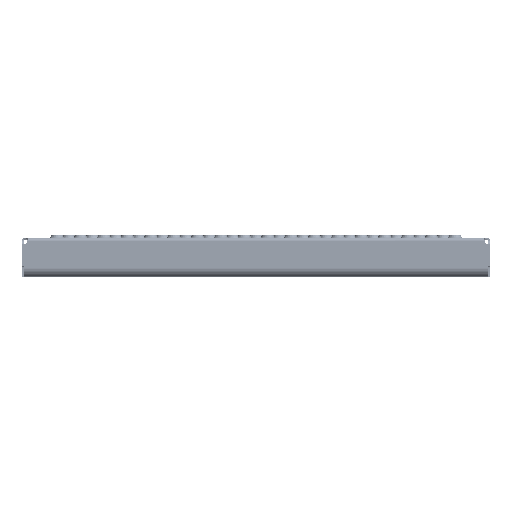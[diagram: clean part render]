
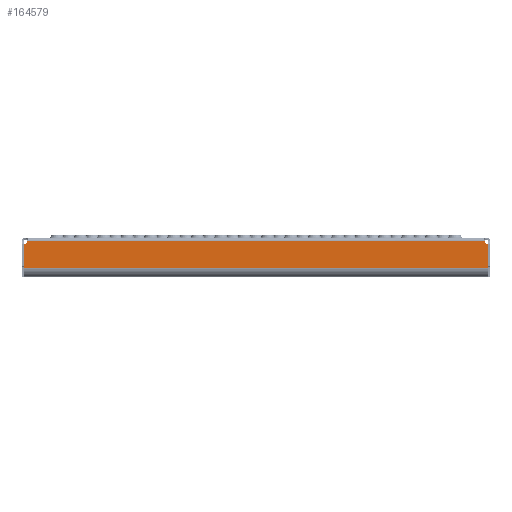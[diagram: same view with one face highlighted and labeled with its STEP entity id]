
A CAD part, top view. The second image highlights one B-rep face of the part: STEP entity #164579.
In plain terms, the highlighted planar face has unit normal (0, 0, 1).
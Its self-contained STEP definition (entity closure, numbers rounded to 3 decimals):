
#1077 = DIRECTION ( 'NONE',  ( 0., 0., 1. ) ) ;
#3634 = ORIENTED_EDGE ( 'NONE', *, *, #90592, .T. ) ;
#5279 = CARTESIAN_POINT ( 'NONE',  ( 247.99, -7.185, 112.5 ) ) ;
#13120 = DIRECTION ( 'NONE',  ( 1., 0., 0. ) ) ;
#14714 = PLANE ( 'NONE',  #163937 ) ;
#21278 = EDGE_CURVE ( 'NONE', #21369, #170314, #21654, .T. ) ;
#21369 = VERTEX_POINT ( 'NONE', #72863 ) ;
#21654 = LINE ( 'NONE', #50721, #62301 ) ;
#31432 = DIRECTION ( 'NONE',  ( 0., 0., -1. ) ) ;
#34585 = VECTOR ( 'NONE', #35642, 1000. ) ;
#35642 = DIRECTION ( 'NONE',  ( 0., -1., 0. ) ) ;
#46925 = CARTESIAN_POINT ( 'NONE',  ( 249., -2.288, 112.5 ) ) ;
#50721 = CARTESIAN_POINT ( 'NONE',  ( -247.99, -31.998, 112.5 ) ) ;
#54565 = ORIENTED_EDGE ( 'NONE', *, *, #95987, .T. ) ;
#55003 = CARTESIAN_POINT ( 'NONE',  ( 247.99, -7.185, 112.5 ) ) ;
#62301 = VECTOR ( 'NONE', #153582, 1000. ) ;
#66844 = AXIS2_PLACEMENT_3D ( 'NONE', #121209, #78435, #180402 ) ;
#67049 = CARTESIAN_POINT ( 'NONE',  ( -244.302, -4., 112.5 ) ) ;
#69908 = CARTESIAN_POINT ( 'NONE',  ( 247.99, -31.998, 112.5 ) ) ;
#71299 = CARTESIAN_POINT ( 'NONE',  ( -249., -4., 112.5 ) ) ;
#72863 = CARTESIAN_POINT ( 'NONE',  ( -247.99, -31.998, 112.5 ) ) ;
#73855 = DIRECTION ( 'NONE',  ( 0., -1., 0. ) ) ;
#76771 = EDGE_CURVE ( 'NONE', #170314, #113737, #80905, .T. ) ;
#78435 = DIRECTION ( 'NONE',  ( 0., 0., -1. ) ) ;
#78439 = VERTEX_POINT ( 'NONE', #103760 ) ;
#80905 = LINE ( 'NONE', #5279, #148028 ) ;
#81292 = LINE ( 'NONE', #184181, #34585 ) ;
#88667 = DIRECTION ( 'NONE',  ( 0., -1., 0. ) ) ;
#90592 = EDGE_CURVE ( 'NONE', #185279, #21369, #81292, .T. ) ;
#95987 = EDGE_CURVE ( 'NONE', #136774, #185279, #166015, .T. ) ;
#102296 = LINE ( 'NONE', #71299, #149218 ) ;
#103760 = CARTESIAN_POINT ( 'NONE',  ( 244.302, -4., 112.5 ) ) ;
#108093 = CARTESIAN_POINT ( 'NONE',  ( -247.99, -7.185, 112.5 ) ) ;
#113737 = VERTEX_POINT ( 'NONE', #55003 ) ;
#120815 = ORIENTED_EDGE ( 'NONE', *, *, #76771, .T. ) ;
#121209 = CARTESIAN_POINT ( 'NONE',  ( -249., -2.288, 112.5 ) ) ;
#132933 = ORIENTED_EDGE ( 'NONE', *, *, #167399, .F. ) ;
#133987 = FACE_OUTER_BOUND ( 'NONE', #144977, .T. ) ;
#136774 = VERTEX_POINT ( 'NONE', #67049 ) ;
#144977 = EDGE_LOOP ( 'NONE', ( #145199, #120815, #176247, #132933, #54565, #3634 ) ) ;
#145199 = ORIENTED_EDGE ( 'NONE', *, *, #21278, .T. ) ;
#148028 = VECTOR ( 'NONE', #182861, 1000. ) ;
#149218 = VECTOR ( 'NONE', #13120, 1000. ) ;
#153582 = DIRECTION ( 'NONE',  ( 1., 0., 0. ) ) ;
#163937 = AXIS2_PLACEMENT_3D ( 'NONE', #176760, #1077, #73855 ) ;
#164579 = ADVANCED_FACE ( 'NONE', ( #133987 ), #14714, .T. ) ;
#164911 = CIRCLE ( 'NONE', #189731, 5. ) ;
#166015 = CIRCLE ( 'NONE', #66844, 5. ) ;
#167399 = EDGE_CURVE ( 'NONE', #136774, #78439, #102296, .T. ) ;
#170314 = VERTEX_POINT ( 'NONE', #69908 ) ;
#176247 = ORIENTED_EDGE ( 'NONE', *, *, #182627, .T. ) ;
#176760 = CARTESIAN_POINT ( 'NONE',  ( -249., 220.712, 112.5 ) ) ;
#180402 = DIRECTION ( 'NONE',  ( 0., -1., 0. ) ) ;
#182627 = EDGE_CURVE ( 'NONE', #113737, #78439, #164911, .T. ) ;
#182861 = DIRECTION ( 'NONE',  ( 0., 1., 0. ) ) ;
#184181 = CARTESIAN_POINT ( 'NONE',  ( -247.99, -7.185, 112.5 ) ) ;
#185279 = VERTEX_POINT ( 'NONE', #108093 ) ;
#189731 = AXIS2_PLACEMENT_3D ( 'NONE', #46925, #31432, #88667 ) ;
